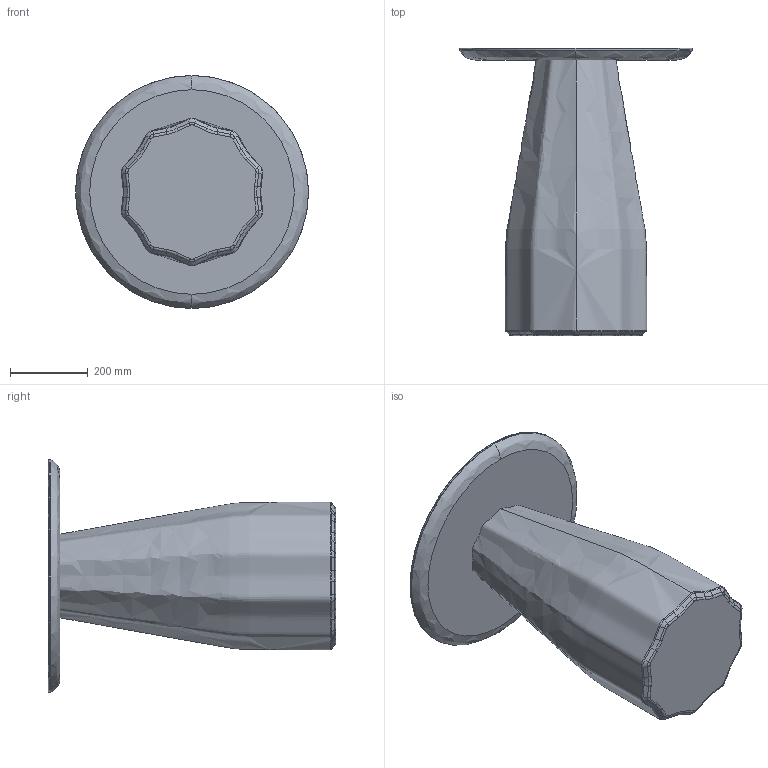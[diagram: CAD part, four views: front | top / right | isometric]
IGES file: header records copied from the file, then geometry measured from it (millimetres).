
Start section: SolidWorks IGES file using analytic representation for surfaces
Global section: file name: Z:\01-VICCARBE\VICCARBE TECNICO 2018\6.-Studio VCCB\Otros\Burin\Modelado\WEB\Nueva carpeta\BurinH74D60.IGS; native system: SolidWorks 2013; preprocessor: SolidWorks 2013; author: Usuario; date: 190219.125549; units: millimetre
Bounding box: 600 x 740 x 600 mm (x, y, z)
Volume: 64436139.7 mm3; surface area: 1447451.4 mm2
Topology: 2 solids, 2 shells, 134 faces, 344 edges, 214 vertices
Faces by surface type: bspline 122, revolution 8, plane 4
